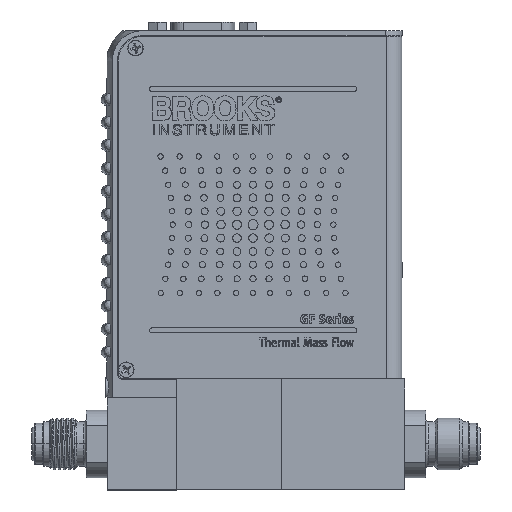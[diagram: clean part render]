
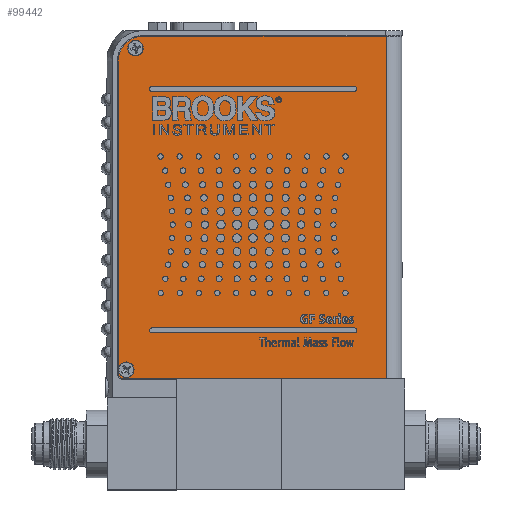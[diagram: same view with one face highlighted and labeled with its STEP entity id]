
A CAD part, top view. The second image highlights one B-rep face of the part: STEP entity #99442.
In plain terms, the highlighted planar face has unit normal (0, 0, 1).
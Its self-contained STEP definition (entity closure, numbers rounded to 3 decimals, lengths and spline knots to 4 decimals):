
#1310 = DIRECTION ( 'NONE',  ( 0., -1., 0. ) ) ;
#1565 = EDGE_CURVE ( 'NONE', #114351, #52323, #36914, .T. ) ;
#3198 = CARTESIAN_POINT ( 'NONE',  ( -1.0174, 4.717, 0.56 ) ) ;
#4111 = CIRCLE ( 'NONE', #102727, 0.086 ) ;
#7138 = DIRECTION ( 'NONE',  ( -1., 0., 0. ) ) ;
#8046 = VERTEX_POINT ( 'NONE', #60801 ) ;
#9428 = AXIS2_PLACEMENT_3D ( 'NONE', #63163, #15333, #53737 ) ;
#9672 = FACE_OUTER_BOUND ( 'NONE', #37206, .T. ) ;
#9831 = DIRECTION ( 'NONE',  ( -1., 0., 0. ) ) ;
#10804 = ORIENTED_EDGE ( 'NONE', *, *, #59665, .F. ) ;
#10981 = VERTEX_POINT ( 'NONE', #3198 ) ;
#11395 = CARTESIAN_POINT ( 'NONE',  ( -1.119, 1.213, 0.56 ) ) ;
#15333 = DIRECTION ( 'NONE',  ( 0., 0., 1. ) ) ;
#16746 = ORIENTED_EDGE ( 'NONE', *, *, #63683, .F. ) ;
#17686 = ORIENTED_EDGE ( 'NONE', *, *, #95071, .F. ) ;
#18300 = DIRECTION ( 'NONE',  ( 0., -1., 0. ) ) ;
#20394 = ORIENTED_EDGE ( 'NONE', *, *, #64349, .T. ) ;
#20440 = CARTESIAN_POINT ( 'NONE',  ( -1.0174, 4.803, 0.56 ) ) ;
#20486 = CARTESIAN_POINT ( 'NONE',  ( -0.9374, 4.662, 0.56 ) ) ;
#21692 = AXIS2_PLACEMENT_3D ( 'NONE', #20440, #40590, #107324 ) ;
#22648 = FACE_BOUND ( 'NONE', #71046, .T. ) ;
#23720 = ORIENTED_EDGE ( 'NONE', *, *, #89779, .T. ) ;
#27479 = DIRECTION ( 'NONE',  ( 0., -1., 0. ) ) ;
#28413 = LINE ( 'NONE', #29057, #74507 ) ;
#28553 = PLANE ( 'NONE',  #86673 ) ;
#29057 = CARTESIAN_POINT ( 'NONE',  ( -1.2074, 4.932, 0.56 ) ) ;
#29303 = AXIS2_PLACEMENT_3D ( 'NONE', #20486, #105523, #9831 ) ;
#29507 = LINE ( 'NONE', #46503, #70438 ) ;
#30288 = CARTESIAN_POINT ( 'NONE',  ( 1.7116, 4.9323, 0.56 ) ) ;
#32732 = DIRECTION ( 'NONE',  ( -1., 0., 0. ) ) ;
#33475 = ORIENTED_EDGE ( 'NONE', *, *, #64041, .F. ) ;
#36914 = CIRCLE ( 'NONE', #83205, 0.063 ) ;
#37206 = EDGE_LOOP ( 'NONE', ( #20394, #104944, #23720, #58263, #16746, #109597 ) ) ;
#37691 = DIRECTION ( 'NONE',  ( 1., 0., 0. ) ) ;
#38003 = DIRECTION ( 'NONE',  ( 0., 0., -1. ) ) ;
#39152 = LINE ( 'NONE', #69295, #87453 ) ;
#40590 = DIRECTION ( 'NONE',  ( 0., 0., 1. ) ) ;
#40952 = ORIENTED_EDGE ( 'NONE', *, *, #58257, .F. ) ;
#41917 = EDGE_CURVE ( 'NONE', #118381, #95127, #61960, .T. ) ;
#46503 = CARTESIAN_POINT ( 'NONE',  ( 1.7116, 4.9323, 0.56 ) ) ;
#50318 = CARTESIAN_POINT ( 'NONE',  ( -0.9374, 4.932, 0.56 ) ) ;
#51396 = CIRCLE ( 'NONE', #29303, 0.27 ) ;
#52323 = VERTEX_POINT ( 'NONE', #78018 ) ;
#52509 = CARTESIAN_POINT ( 'NONE',  ( 1.7116, 4.9323, 0.56 ) ) ;
#53117 = CARTESIAN_POINT ( 'NONE',  ( -1.144, 1.264, 0.56 ) ) ;
#53737 = DIRECTION ( 'NONE',  ( 0., -1., 0. ) ) ;
#54310 = EDGE_CURVE ( 'NONE', #58890, #94363, #51396, .T. ) ;
#55820 = CARTESIAN_POINT ( 'NONE',  ( -1.119, 1.299, 0.56 ) ) ;
#57340 = CARTESIAN_POINT ( 'NONE',  ( 1.712, 1.2013, 0.56 ) ) ;
#57616 = CARTESIAN_POINT ( 'NONE',  ( -1.0174, 4.889, 0.56 ) ) ;
#58257 = EDGE_CURVE ( 'NONE', #10981, #112702, #67723, .T. ) ;
#58263 = ORIENTED_EDGE ( 'NONE', *, *, #41917, .F. ) ;
#58890 = VERTEX_POINT ( 'NONE', #50318 ) ;
#59665 = EDGE_CURVE ( 'NONE', #112702, #10981, #86101, .T. ) ;
#60801 = CARTESIAN_POINT ( 'NONE',  ( -1.119, 1.385, 0.56 ) ) ;
#61960 = LINE ( 'NONE', #52509, #93992 ) ;
#63163 = CARTESIAN_POINT ( 'NONE',  ( -1.0174, 4.803, 0.56 ) ) ;
#63683 = EDGE_CURVE ( 'NONE', #58890, #118381, #29507, .T. ) ;
#64041 = EDGE_CURVE ( 'NONE', #64546, #8046, #4111, .T. ) ;
#64349 = EDGE_CURVE ( 'NONE', #94363, #114351, #28413, .T. ) ;
#64546 = VERTEX_POINT ( 'NONE', #11395 ) ;
#67723 = CIRCLE ( 'NONE', #9428, 0.086 ) ;
#69295 = CARTESIAN_POINT ( 'NONE',  ( 1.712, 1.2013, 0.56 ) ) ;
#70438 = VECTOR ( 'NONE', #37691, 39.3701 ) ;
#71046 = EDGE_LOOP ( 'NONE', ( #33475, #17686 ) ) ;
#74507 = VECTOR ( 'NONE', #1310, 39.3701 ) ;
#78018 = CARTESIAN_POINT ( 'NONE',  ( -1.144, 1.201, 0.56 ) ) ;
#79340 = FACE_BOUND ( 'NONE', #98383, .T. ) ;
#83136 = CARTESIAN_POINT ( 'NONE',  ( -1.207, 1.264, 0.56 ) ) ;
#83205 = AXIS2_PLACEMENT_3D ( 'NONE', #53117, #111064, #7138 ) ;
#85728 = CIRCLE ( 'NONE', #101794, 0.086 ) ;
#86101 = CIRCLE ( 'NONE', #21692, 0.086 ) ;
#86673 = AXIS2_PLACEMENT_3D ( 'NONE', #108920, #38003, #32732 ) ;
#87453 = VECTOR ( 'NONE', #105887, 39.3701 ) ;
#89779 = EDGE_CURVE ( 'NONE', #52323, #95127, #39152, .T. ) ;
#90937 = DIRECTION ( 'NONE',  ( 0., -1., 0. ) ) ;
#93280 = CARTESIAN_POINT ( 'NONE',  ( -1.119, 1.299, 0.56 ) ) ;
#93992 = VECTOR ( 'NONE', #90937, 39.3701 ) ;
#94363 = VERTEX_POINT ( 'NONE', #95588 ) ;
#95071 = EDGE_CURVE ( 'NONE', #8046, #64546, #85728, .T. ) ;
#95127 = VERTEX_POINT ( 'NONE', #57340 ) ;
#95588 = CARTESIAN_POINT ( 'NONE',  ( -1.2074, 4.662, 0.56 ) ) ;
#98383 = EDGE_LOOP ( 'NONE', ( #40952, #10804 ) ) ;
#99442 = ADVANCED_FACE ( 'NONE', ( #9672, #79340, #22648 ), #28553, .F. ) ;
#101794 = AXIS2_PLACEMENT_3D ( 'NONE', #93280, #103328, #18300 ) ;
#102727 = AXIS2_PLACEMENT_3D ( 'NONE', #55820, #112515, #27479 ) ;
#103328 = DIRECTION ( 'NONE',  ( 0., 0., 1. ) ) ;
#104944 = ORIENTED_EDGE ( 'NONE', *, *, #1565, .T. ) ;
#105523 = DIRECTION ( 'NONE',  ( 0., 0., 1. ) ) ;
#105887 = DIRECTION ( 'NONE',  ( 1., 0., 0. ) ) ;
#107324 = DIRECTION ( 'NONE',  ( 0., -1., 0. ) ) ;
#108920 = CARTESIAN_POINT ( 'NONE',  ( 1.7116, 4.9323, 0.56 ) ) ;
#109597 = ORIENTED_EDGE ( 'NONE', *, *, #54310, .T. ) ;
#111064 = DIRECTION ( 'NONE',  ( 0., 0., 1. ) ) ;
#112515 = DIRECTION ( 'NONE',  ( 0., 0., 1. ) ) ;
#112702 = VERTEX_POINT ( 'NONE', #57616 ) ;
#114351 = VERTEX_POINT ( 'NONE', #83136 ) ;
#118381 = VERTEX_POINT ( 'NONE', #30288 ) ;
